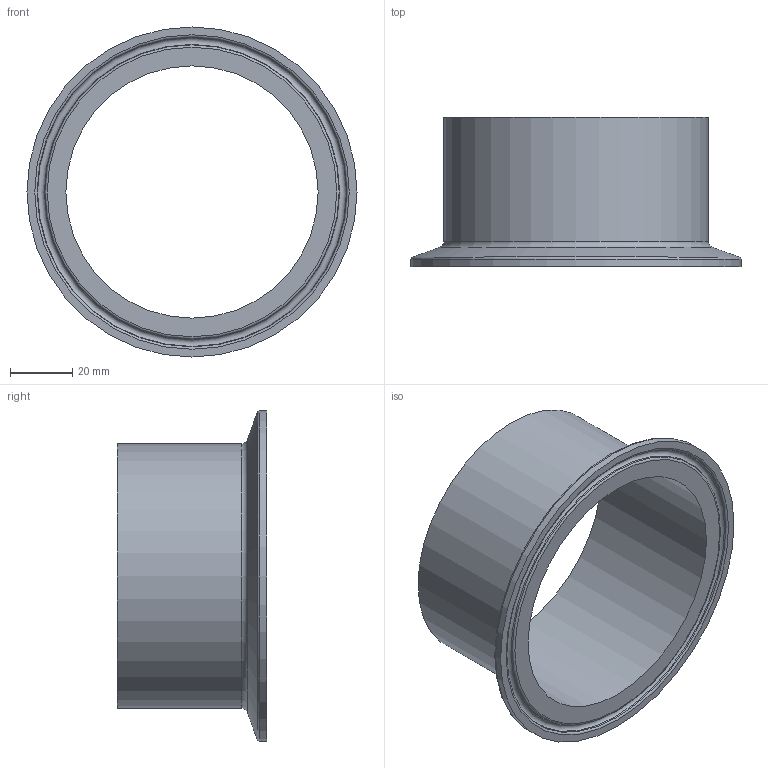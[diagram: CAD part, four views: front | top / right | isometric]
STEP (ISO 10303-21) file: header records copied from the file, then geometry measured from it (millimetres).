
FILE_DESCRIPTION(('Ferrule_85x2_L48_FL106_V02'),'2;1');
FILE_NAME('Ferrule_85x2_L48_FL106_V02.stp','2013-11-03T13:20:52',('DOCKWEILER AG'),('DOCKWEILER AG'),'Autodesk Inventor 2012','Autodesk Inventor 2012','');
FILE_SCHEMA(('CONFIG_CONTROL_DESIGN'));
Length unit declared in the file: millimetre
Products named in the file (1): N0003_003_001
Bounding box: 106 x 48 x 106 mm (x, y, z)
Volume: 38818.4 mm3; surface area: 32060.6 mm2
Topology: 1 solids, 1 shells, 14 faces, 25 edges, 14 vertices
Faces by surface type: torus 5, plane 3, cylinder 3, cone 3
Full cylindrical faces by diameter (mm): 81 x1, 85 x1, 106 x1
Entity records: 314 total; most frequent: DIRECTION 58, CARTESIAN_POINT 43, AXIS2_PLACEMENT_3D 29, ORIENTED_EDGE 28, EDGE_LOOP 28, VERTEX_POINT 14, CIRCLE 14, EDGE_CURVE 14
